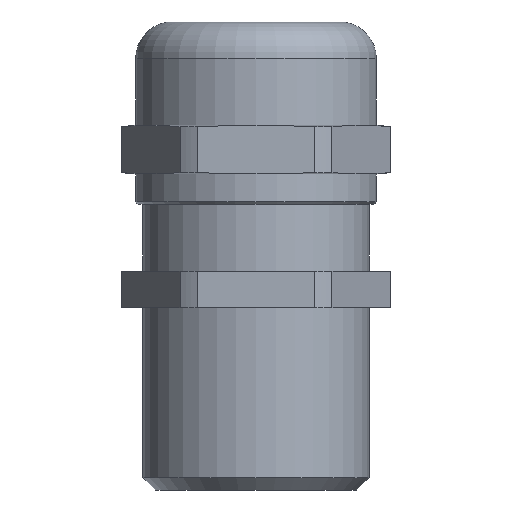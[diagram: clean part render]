
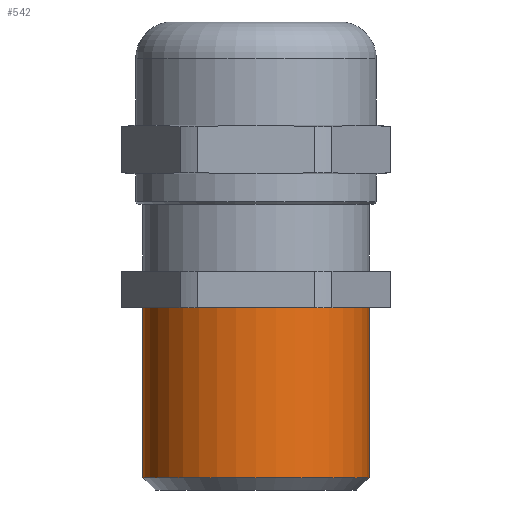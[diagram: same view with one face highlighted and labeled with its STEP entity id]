
A CAD part, left-side view. The second image highlights one B-rep face of the part: STEP entity #542.
In plain terms, the highlighted cylindrical face has radius 9.3 mm (diameter 18.6 mm), a partial arc.
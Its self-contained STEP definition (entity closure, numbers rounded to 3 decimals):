
#48 = EDGE_CURVE ( 'NONE', #55, #114, #1224, .T. ) ;
#55 = VERTEX_POINT ( 'NONE', #1214 ) ;
#62 = VERTEX_POINT ( 'NONE', #1078 ) ;
#65 = EDGE_CURVE ( 'NONE', #62, #116, #1073, .T. ) ;
#114 = VERTEX_POINT ( 'NONE', #1040 ) ;
#116 = VERTEX_POINT ( 'NONE', #1039 ) ;
#209 = EDGE_CURVE ( 'NONE', #114, #116, #1289, .T. ) ;
#210 = EDGE_LOOP ( 'NONE', ( #543, #611, #541, #550 ) ) ;
#541 = ORIENTED_EDGE ( 'NONE', *, *, #65, .T. ) ;
#542 = ADVANCED_FACE ( 'NONE', ( #2017 ), #2015, .T. ) ;
#543 = ORIENTED_EDGE ( 'NONE', *, *, #48, .F. ) ;
#550 = ORIENTED_EDGE ( 'NONE', *, *, #209, .F. ) ;
#611 = ORIENTED_EDGE ( 'NONE', *, *, #612, .T. ) ;
#612 = EDGE_CURVE ( 'NONE', #55, #62, #2028, .T. ) ;
#1039 = CARTESIAN_POINT ( 'NONE',  ( 0., 9.3, 1. ) ) ;
#1040 = CARTESIAN_POINT ( 'NONE',  ( 0., -9.3, 1. ) ) ;
#1070 = DIRECTION ( 'NONE',  ( 0., 0., -1. ) ) ;
#1071 = VECTOR ( 'NONE', #1070, 1000. ) ;
#1072 = CARTESIAN_POINT ( 'NONE',  ( 0., 9.3, 0. ) ) ;
#1073 = LINE ( 'NONE', #1072, #1071 ) ;
#1078 = CARTESIAN_POINT ( 'NONE',  ( 0., 9.3, 15. ) ) ;
#1214 = CARTESIAN_POINT ( 'NONE',  ( 0., -9.3, 15. ) ) ;
#1221 = DIRECTION ( 'NONE',  ( 0., 0., -1. ) ) ;
#1222 = VECTOR ( 'NONE', #1221, 1000. ) ;
#1223 = CARTESIAN_POINT ( 'NONE',  ( 0., -9.3, 0. ) ) ;
#1224 = LINE ( 'NONE', #1223, #1222 ) ;
#1285 = DIRECTION ( 'NONE',  ( 0., 1., 0. ) ) ;
#1286 = DIRECTION ( 'NONE',  ( 0., 0., -1. ) ) ;
#1287 = CARTESIAN_POINT ( 'NONE',  ( 0., 0., 1. ) ) ;
#1288 = AXIS2_PLACEMENT_3D ( 'NONE', #1287, #1286, #1285 ) ;
#1289 = CIRCLE ( 'NONE', #1288, 9.3 ) ;
#2011 = DIRECTION ( 'NONE',  ( 0., 1., 0. ) ) ;
#2012 = DIRECTION ( 'NONE',  ( 0., 0., -1. ) ) ;
#2013 = CARTESIAN_POINT ( 'NONE',  ( 0., 0., 0. ) ) ;
#2014 = AXIS2_PLACEMENT_3D ( 'NONE', #2013, #2012, #2011 ) ;
#2015 = CYLINDRICAL_SURFACE ( 'NONE', #2014, 9.3 ) ;
#2017 = FACE_OUTER_BOUND ( 'NONE', #210, .T. ) ;
#2028 = CIRCLE ( 'NONE', #2149, 9.3 ) ;
#2146 = DIRECTION ( 'NONE',  ( 0., 1., 0. ) ) ;
#2147 = DIRECTION ( 'NONE',  ( 0., 0., -1. ) ) ;
#2148 = CARTESIAN_POINT ( 'NONE',  ( 0., 0., 15. ) ) ;
#2149 = AXIS2_PLACEMENT_3D ( 'NONE', #2148, #2147, #2146 ) ;
